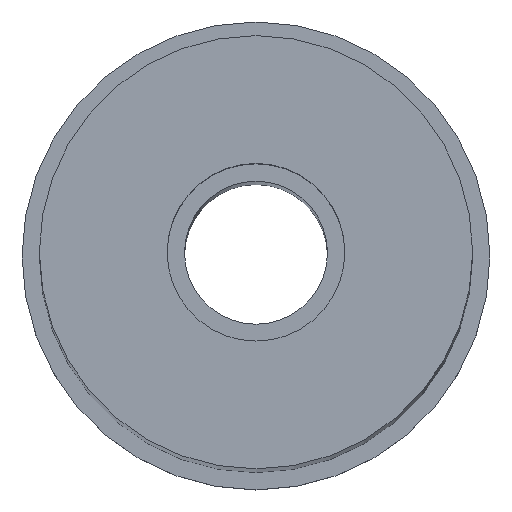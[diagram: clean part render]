
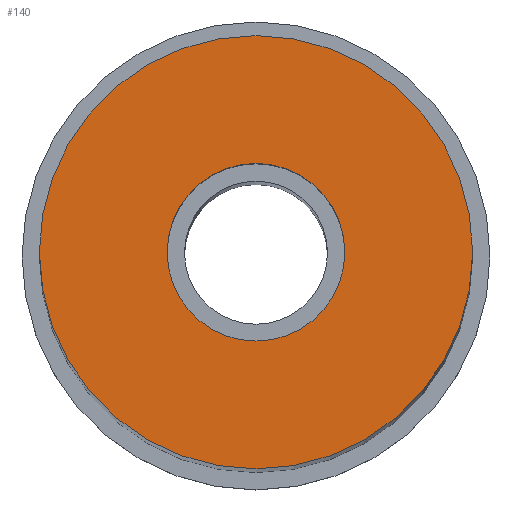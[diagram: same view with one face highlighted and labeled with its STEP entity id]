
A CAD part, top view. The second image highlights one B-rep face of the part: STEP entity #140.
In plain terms, the highlighted planar face has unit normal (0, 0, 1).
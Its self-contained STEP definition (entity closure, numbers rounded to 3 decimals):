
#24 = VERTEX_POINT('',#25);
#25 = CARTESIAN_POINT('',(5.,0.,50.));
#32 = CYLINDRICAL_SURFACE('',#33,5.);
#33 = AXIS2_PLACEMENT_3D('',#34,#35,#36);
#34 = CARTESIAN_POINT('',(0.,0.,0.));
#35 = DIRECTION('',(0.,0.,1.));
#36 = DIRECTION('',(1.,0.,-0.));
#51 = EDGE_CURVE('',#24,#24,#52,.T.);
#52 = SURFACE_CURVE('',#53,(#58,#65),.PCURVE_S1.);
#53 = CIRCLE('',#54,5.);
#54 = AXIS2_PLACEMENT_3D('',#55,#56,#57);
#55 = CARTESIAN_POINT('',(0.,0.,50.));
#56 = DIRECTION('',(0.,0.,1.));
#57 = DIRECTION('',(1.,0.,-0.));
#58 = PCURVE('',#32,#59);
#59 = DEFINITIONAL_REPRESENTATION('',(#60),#64);
#60 = LINE('',#61,#62);
#61 = CARTESIAN_POINT('',(0.,50.));
#62 = VECTOR('',#63,1.);
#63 = DIRECTION('',(1.,0.));
#64 = ( GEOMETRIC_REPRESENTATION_CONTEXT(2) 
PARAMETRIC_REPRESENTATION_CONTEXT() REPRESENTATION_CONTEXT('2D SPACE',''
  ) );
#65 = PCURVE('',#66,#71);
#66 = PLANE('',#67);
#67 = AXIS2_PLACEMENT_3D('',#68,#69,#70);
#68 = CARTESIAN_POINT('',(0.,0.,50.));
#69 = DIRECTION('',(0.,0.,1.));
#70 = DIRECTION('',(1.,0.,-0.));
#71 = DEFINITIONAL_REPRESENTATION('',(#72),#76);
#72 = CIRCLE('',#73,5.);
#73 = AXIS2_PLACEMENT_2D('',#74,#75);
#74 = CARTESIAN_POINT('',(0.,0.));
#75 = DIRECTION('',(1.,0.));
#76 = ( GEOMETRIC_REPRESENTATION_CONTEXT(2) 
PARAMETRIC_REPRESENTATION_CONTEXT() REPRESENTATION_CONTEXT('2D SPACE',''
  ) );
#140 = ADVANCED_FACE('',(#141,#144),#66,.T.);
#141 = FACE_BOUND('',#142,.T.);
#142 = EDGE_LOOP('',(#143));
#143 = ORIENTED_EDGE('',*,*,#51,.T.);
#144 = FACE_BOUND('',#145,.T.);
#145 = EDGE_LOOP('',(#146));
#146 = ORIENTED_EDGE('',*,*,#147,.F.);
#147 = EDGE_CURVE('',#148,#148,#150,.T.);
#148 = VERTEX_POINT('',#149);
#149 = CARTESIAN_POINT('',(2.05,0.,50.));
#150 = SURFACE_CURVE('',#151,(#156,#163),.PCURVE_S1.);
#151 = CIRCLE('',#152,2.05);
#152 = AXIS2_PLACEMENT_3D('',#153,#154,#155);
#153 = CARTESIAN_POINT('',(0.,0.,50.));
#154 = DIRECTION('',(0.,0.,1.));
#155 = DIRECTION('',(1.,0.,-0.));
#156 = PCURVE('',#66,#157);
#157 = DEFINITIONAL_REPRESENTATION('',(#158),#162);
#158 = CIRCLE('',#159,2.05);
#159 = AXIS2_PLACEMENT_2D('',#160,#161);
#160 = CARTESIAN_POINT('',(0.,0.));
#161 = DIRECTION('',(1.,0.));
#162 = ( GEOMETRIC_REPRESENTATION_CONTEXT(2) 
PARAMETRIC_REPRESENTATION_CONTEXT() REPRESENTATION_CONTEXT('2D SPACE',''
  ) );
#163 = PCURVE('',#164,#169);
#164 = CYLINDRICAL_SURFACE('',#165,2.05);
#165 = AXIS2_PLACEMENT_3D('',#166,#167,#168);
#166 = CARTESIAN_POINT('',(0.,0.,44.));
#167 = DIRECTION('',(0.,0.,1.));
#168 = DIRECTION('',(1.,0.,-0.));
#169 = DEFINITIONAL_REPRESENTATION('',(#170),#174);
#170 = LINE('',#171,#172);
#171 = CARTESIAN_POINT('',(0.,6.));
#172 = VECTOR('',#173,1.);
#173 = DIRECTION('',(1.,0.));
#174 = ( GEOMETRIC_REPRESENTATION_CONTEXT(2) 
PARAMETRIC_REPRESENTATION_CONTEXT() REPRESENTATION_CONTEXT('2D SPACE',''
  ) );
